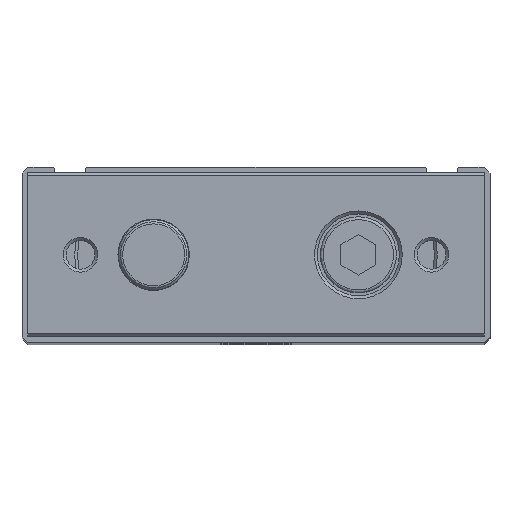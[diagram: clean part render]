
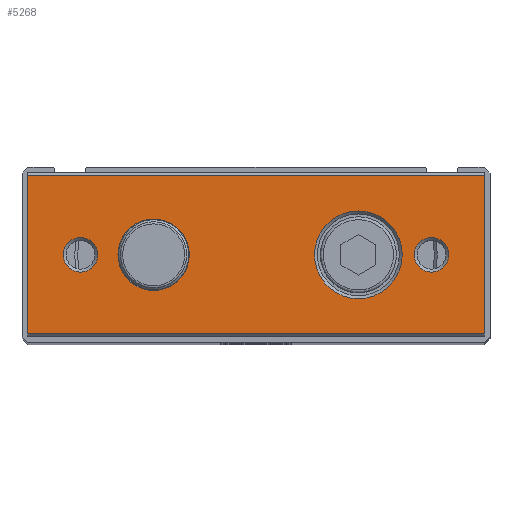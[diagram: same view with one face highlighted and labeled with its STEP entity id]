
A CAD part, top view. The second image highlights one B-rep face of the part: STEP entity #5268.
In plain terms, the highlighted planar face has unit normal (0, 0, 1).
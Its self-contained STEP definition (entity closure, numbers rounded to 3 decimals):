
#3994=CARTESIAN_POINT('',(-39.0,-13.5,211.0));
#3995=VERTEX_POINT('',#3994);
#4002=CARTESIAN_POINT('',(-39.0,13.5,211.0));
#4003=VERTEX_POINT('',#4002);
#4004=CARTESIAN_POINT('',(-39.0,13.5,211.0));
#4005=DIRECTION('',(0.0,-1.0,0.0));
#4006=VECTOR('',#4005,27.);
#4007=LINE('',#4004,#4006);
#4008=EDGE_CURVE('',#4003,#3995,#4007,.T.);
#4122=CARTESIAN_POINT('',(39.0,-13.5,211.0));
#4123=VERTEX_POINT('',#4122);
#4130=CARTESIAN_POINT('',(39.0,-13.5,211.0));
#4131=DIRECTION('',(-1.0,0.0,0.0));
#4132=VECTOR('',#4131,78.0);
#4133=LINE('',#4130,#4132);
#4134=EDGE_CURVE('',#4123,#3995,#4133,.T.);
#4201=CARTESIAN_POINT('',(39.0,13.5,211.0));
#4202=VERTEX_POINT('',#4201);
#4209=CARTESIAN_POINT('',(39.0,-13.5,211.0));
#4210=DIRECTION('',(0.0,1.0,0.0));
#4211=VECTOR('',#4210,27.);
#4212=LINE('',#4209,#4211);
#4213=EDGE_CURVE('',#4123,#4202,#4212,.T.);
#5204=CARTESIAN_POINT('',(-27.042,0.,211.0));
#5205=VERTEX_POINT('',#5204);
#5206=CARTESIAN_POINT('',(-30.0,0.,211.0));
#5207=DIRECTION('',(0.0,0.0,1.0));
#5208=DIRECTION('',(-1.0,0.0,0.0));
#5209=AXIS2_PLACEMENT_3D('',#5206,#5207,#5208);
#5210=CIRCLE('',#5209,2.958);
#5211=EDGE_CURVE('',#5205,#5205,#5210,.T.);
#5216=CARTESIAN_POINT('',(0.0,-14.,211.0));
#5217=DIRECTION('',(0.0,0.0,1.0));
#5218=DIRECTION('',(1.0,0.0,0.0));
#5219=AXIS2_PLACEMENT_3D('',#5216,#5217,#5218);
#5220=PLANE('',#5219);
#5221=ORIENTED_EDGE('',*,*,#4134,.F.);
#5222=ORIENTED_EDGE('',*,*,#4213,.T.);
#5223=CARTESIAN_POINT('',(-39.0,13.5,211.0));
#5224=DIRECTION('',(1.0,0.0,0.0));
#5225=VECTOR('',#5224,78.0);
#5226=LINE('',#5223,#5225);
#5227=EDGE_CURVE('',#4003,#4202,#5226,.T.);
#5228=ORIENTED_EDGE('',*,*,#5227,.F.);
#5229=ORIENTED_EDGE('',*,*,#4008,.T.);
#5230=EDGE_LOOP('',(#5221,#5222,#5228,#5229));
#5231=FACE_OUTER_BOUND('',#5230,.T.);
#5232=CARTESIAN_POINT('',(32.959,0.,211.0));
#5233=VERTEX_POINT('',#5232);
#5234=CARTESIAN_POINT('',(30.0,0.,211.0));
#5235=DIRECTION('',(0.0,0.0,1.0));
#5236=DIRECTION('',(-1.0,0.0,0.0));
#5237=AXIS2_PLACEMENT_3D('',#5234,#5235,#5236);
#5238=CIRCLE('',#5237,2.958);
#5239=EDGE_CURVE('',#5233,#5233,#5238,.T.);
#5240=ORIENTED_EDGE('',*,*,#5239,.F.);
#5241=EDGE_LOOP('',(#5240));
#5242=FACE_BOUND('',#5241,.T.);
#5243=CARTESIAN_POINT('',(-11.4,0.,211.0));
#5244=VERTEX_POINT('',#5243);
#5245=CARTESIAN_POINT('',(-17.5,0.,211.0));
#5246=DIRECTION('',(0.0,0.0,-1.0));
#5247=DIRECTION('',(-1.0,0.0,0.0));
#5248=AXIS2_PLACEMENT_3D('',#5245,#5246,#5247);
#5249=CIRCLE('',#5248,6.1);
#5250=EDGE_CURVE('',#5244,#5244,#5249,.T.);
#5251=ORIENTED_EDGE('',*,*,#5250,.T.);
#5252=EDGE_LOOP('',(#5251));
#5253=FACE_BOUND('',#5252,.T.);
#5254=CARTESIAN_POINT('',(25.0,0.,211.0));
#5255=VERTEX_POINT('',#5254);
#5256=CARTESIAN_POINT('',(17.5,0.,211.0));
#5257=DIRECTION('',(0.0,0.0,1.0));
#5258=DIRECTION('',(-1.0,0.0,0.0));
#5259=AXIS2_PLACEMENT_3D('',#5256,#5257,#5258);
#5260=CIRCLE('',#5259,7.5);
#5261=EDGE_CURVE('',#5255,#5255,#5260,.T.);
#5262=ORIENTED_EDGE('',*,*,#5261,.F.);
#5263=EDGE_LOOP('',(#5262));
#5264=FACE_BOUND('',#5263,.T.);
#5265=ORIENTED_EDGE('',*,*,#5211,.F.);
#5266=EDGE_LOOP('',(#5265));
#5267=FACE_BOUND('',#5266,.T.);
#5268=ADVANCED_FACE('',(#5231,#5242,#5253,#5264,#5267),#5220,.T.);
